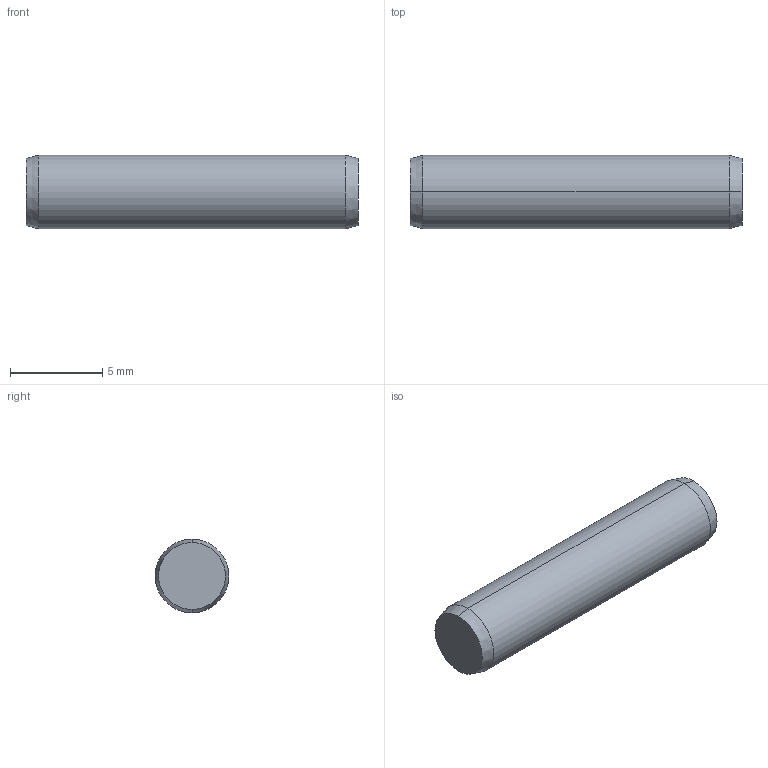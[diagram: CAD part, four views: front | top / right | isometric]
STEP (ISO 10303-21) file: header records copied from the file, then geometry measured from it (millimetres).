
FILE_DESCRIPTION (( 'STEP AP203' ), '1' );
FILE_NAME ('P1206.040-018.step', '2017-06-14T08:10:14', ( 'User' ), ( '' ), 'SwSTEP 2.0', 'SolidWorks 2009', '' );
FILE_SCHEMA (( 'CONFIG_CONTROL_DESIGN' ));
Length unit declared in the file: millimetre
Products named in the file (1): P1206.040-018
Bounding box: 18 x 4 x 4 mm (x, y, z)
Volume: 224.6 mm3; surface area: 246.6 mm2
Topology: 1 solids, 1 shells, 8 faces, 14 edges, 8 vertices
Faces by surface type: cone 4, cylinder 2, plane 2
Entity records: 271 total; most frequent: DIRECTION 40, CARTESIAN_POINT 31, ORIENTED_EDGE 28, AXIS2_PLACEMENT_3D 17, EDGE_CURVE 14, PERSON_AND_ORGANIZATION 8, CIRCLE 8, FACE_OUTER_BOUND 8
